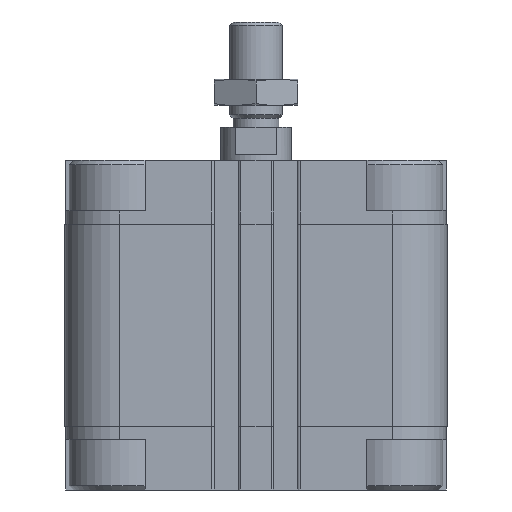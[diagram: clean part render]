
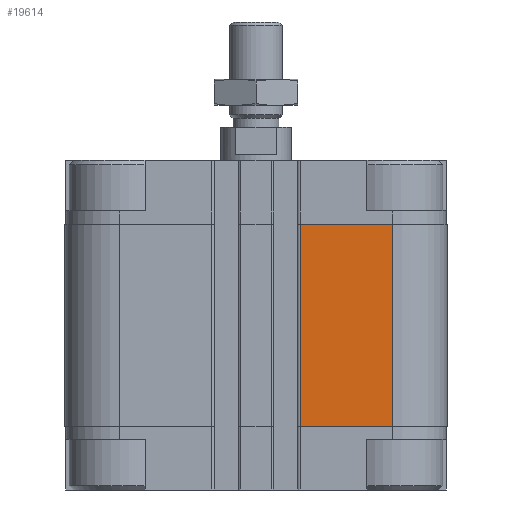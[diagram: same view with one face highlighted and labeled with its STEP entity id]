
A CAD part, front view. The second image highlights one B-rep face of the part: STEP entity #19614.
In plain terms, the highlighted planar face has unit normal (0, -1, 0).
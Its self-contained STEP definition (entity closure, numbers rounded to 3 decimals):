
#81 = DIRECTION ( 'NONE',  ( 0., 0., 1. ) ) ;
#485 = CARTESIAN_POINT ( 'NONE',  ( 10.05, -43.5, -60.5 ) ) ;
#1963 = VECTOR ( 'NONE', #81, 1000. ) ;
#2007 = LINE ( 'NONE', #485, #17371 ) ;
#2749 = DIRECTION ( 'NONE',  ( 1., 0., 0. ) ) ;
#2818 = AXIS2_PLACEMENT_3D ( 'NONE', #4241, #8984, #5961 ) ;
#3634 = VECTOR ( 'NONE', #5932, 1000. ) ;
#4241 = CARTESIAN_POINT ( 'NONE',  ( 10.05, -43.5, -60.5 ) ) ;
#4724 = ORIENTED_EDGE ( 'NONE', *, *, #19919, .F. ) ;
#4765 = VERTEX_POINT ( 'NONE', #5928 ) ;
#5661 = FACE_OUTER_BOUND ( 'NONE', #19556, .T. ) ;
#5725 = CARTESIAN_POINT ( 'NONE',  ( 10.05, -43.5, -14.5 ) ) ;
#5928 = CARTESIAN_POINT ( 'NONE',  ( 31., -43.5, -14.5 ) ) ;
#5932 = DIRECTION ( 'NONE',  ( 1., 0., 0. ) ) ;
#5961 = DIRECTION ( 'NONE',  ( -1., 0., 0. ) ) ;
#6235 = VERTEX_POINT ( 'NONE', #10529 ) ;
#8279 = ORIENTED_EDGE ( 'NONE', *, *, #8987, .T. ) ;
#8856 = LINE ( 'NONE', #5725, #3634 ) ;
#8984 = DIRECTION ( 'NONE',  ( 0., -1., 0. ) ) ;
#8987 = EDGE_CURVE ( 'NONE', #19908, #6235, #12371, .T. ) ;
#10529 = CARTESIAN_POINT ( 'NONE',  ( 31., -43.5, -60.5 ) ) ;
#11046 = EDGE_CURVE ( 'NONE', #6235, #4765, #18902, .T. ) ;
#11410 = CARTESIAN_POINT ( 'NONE',  ( 10.05, -43.5, -60.5 ) ) ;
#11570 = ORIENTED_EDGE ( 'NONE', *, *, #11046, .T. ) ;
#12371 = LINE ( 'NONE', #19874, #13322 ) ;
#12556 = EDGE_CURVE ( 'NONE', #13759, #4765, #8856, .T. ) ;
#12829 = DIRECTION ( 'NONE',  ( 0., 0., 1. ) ) ;
#13322 = VECTOR ( 'NONE', #2749, 1000. ) ;
#13759 = VERTEX_POINT ( 'NONE', #14329 ) ;
#13947 = CARTESIAN_POINT ( 'NONE',  ( 31., -43.5, -60.5 ) ) ;
#14329 = CARTESIAN_POINT ( 'NONE',  ( 10.05, -43.5, -14.5 ) ) ;
#15276 = PLANE ( 'NONE',  #2818 ) ;
#16945 = ORIENTED_EDGE ( 'NONE', *, *, #12556, .F. ) ;
#17371 = VECTOR ( 'NONE', #12829, 1000. ) ;
#18902 = LINE ( 'NONE', #13947, #1963 ) ;
#19556 = EDGE_LOOP ( 'NONE', ( #16945, #4724, #8279, #11570 ) ) ;
#19614 = ADVANCED_FACE ( 'NONE', ( #5661 ), #15276, .T. ) ;
#19874 = CARTESIAN_POINT ( 'NONE',  ( 10.05, -43.5, -60.5 ) ) ;
#19908 = VERTEX_POINT ( 'NONE', #11410 ) ;
#19919 = EDGE_CURVE ( 'NONE', #19908, #13759, #2007, .T. ) ;
